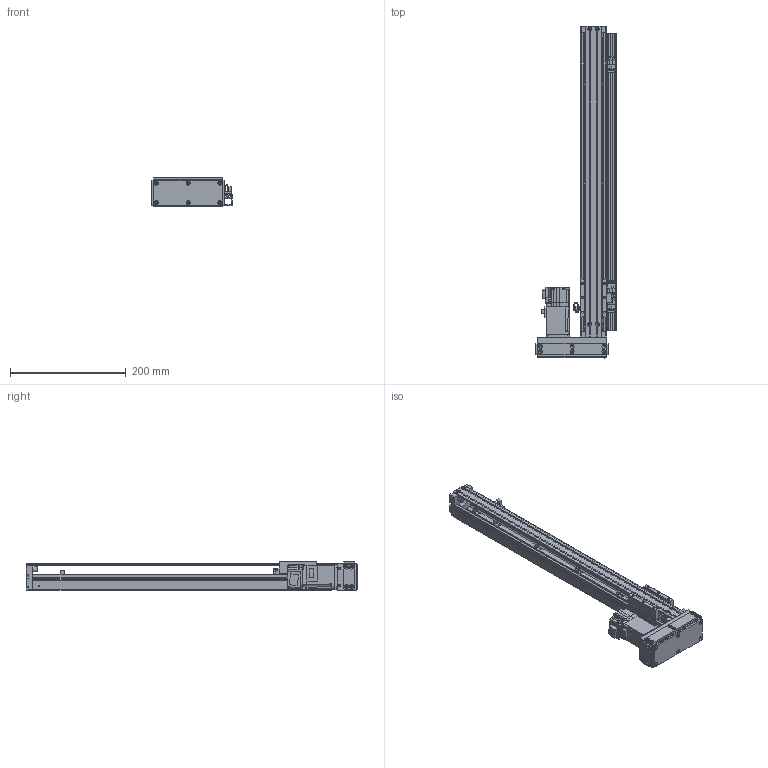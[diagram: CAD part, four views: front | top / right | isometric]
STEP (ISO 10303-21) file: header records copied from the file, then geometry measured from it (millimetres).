
FILE_DESCRIPTION(/* description */ ('MANUFACTURE'),/* implementation_level */ '2;1');
FILE_NAME(/* name */ '\\192.168.0.160\disk1\HAN SHIN Master\B-설계부문\C-표준\B-2024년\BC02-표준도면\+로봇 개선표준도면\표준 승인도 폴더 - 재작업\3D\HG45\병렬-L\HG45-L10-N-0400-R10.stp',/* time_stamp */ '2024-03-05T11:05:01+09:00',/* author */ ('User'),/* organization */ (''),/* preprocessor_version */ 'ST-DEVELOPER v18.1',/* originating_system */ 'Autodesk Inventor 2022',/* authorisation */ 'LIP');
FILE_SCHEMA (('AUTOMOTIVE_DESIGN { 1 0 10303 214 3 1 1 }'));
Products named in the file (21): HG45-L10-N-0500-R10 - 간소화; HR45 S BASE; HR45 REAR BLOCK; HR45 FRONT BLOCK; HR45 STOPPER; HR45 SENSOR RAIL; HR45 SENSOR DOG; HC45 - TABLE (SFSR); HR45 UPCOVER-28mm; NIPPLE CAP(신규); hsr_ftht_A-M6F_grease_nipple_joint; HR45 MOTOR PLATE 100W; HR45 L,R MOTOR PLATE; hg-kr13_; 화살표; HR45 LR BELT COVER; HR45 ACRYL COVER(정면); HR45 ACRYL COVER(측면); HR45 ACRYL COVER(상하면); EE_SX674A; ESF1210 NUT
Assembly tree (27 placements, depth 2):
  HG45-L10-N-0500-R10 - 간소화
    HR45 S BASE
    HR45 REAR BLOCK
    HR45 FRONT BLOCK
    HR45 STOPPER  x4
    HR45 SENSOR RAIL
    HR45 SENSOR DOG
    EE_SX674A  x3
    HC45 - TABLE (SFSR)
    HR45 UPCOVER-28mm
    NIPPLE CAP(신규)
    hsr_ftht_A-M6F_grease_nipple_joint
    HR45 MOTOR PLATE 100W
    HR45 L,R MOTOR PLATE
    hg-kr13_
    화살표  x2
    HR45 LR BELT COVER
    HR45 ACRYL COVER(상하면)  x2
    HR45 ACRYL COVER(정면)
    HR45 ACRYL COVER(측면)
    ESF1210 NUT
Bounding box: 139.5 x 574 x 50 mm (x, y, z)
Volume: 655754.1 mm3; surface area: 348688.6 mm2
Topology: 27 solids, 27 shells, 2330 faces, 6380 edges, 4192 vertices
Faces by surface type: plane 1664, cylinder 512, cone 127, bspline 13, sphere 8, torus 6
Full cylindrical faces by diameter (mm): 1 x1, 2.013 x6, 2.459 x74, 2.5 x4, 3 x11, 3.242 x24, 3.4 x36, 3.5 x21, 4 x13, 4.134 x1, 4.5 x18, 4.917 x2, 5.6 x3, 5.9 x2, 6 x20, 6.5 x6, 8 x13, 9 x4, 10 x1, 12 x1, 13 x1, 15 x1, 18 x1, 22 x2, 24 x1, 26 x1, 30 x2
Entity records: 71645 total; most frequent: CARTESIAN_POINT 13997, ORIENTED_EDGE 11880, DIRECTION 11310, EDGE_CURVE 5940, LINE 4680, VECTOR 4680, VERTEX_POINT 3945, AXIS2_PLACEMENT_3D 3315
